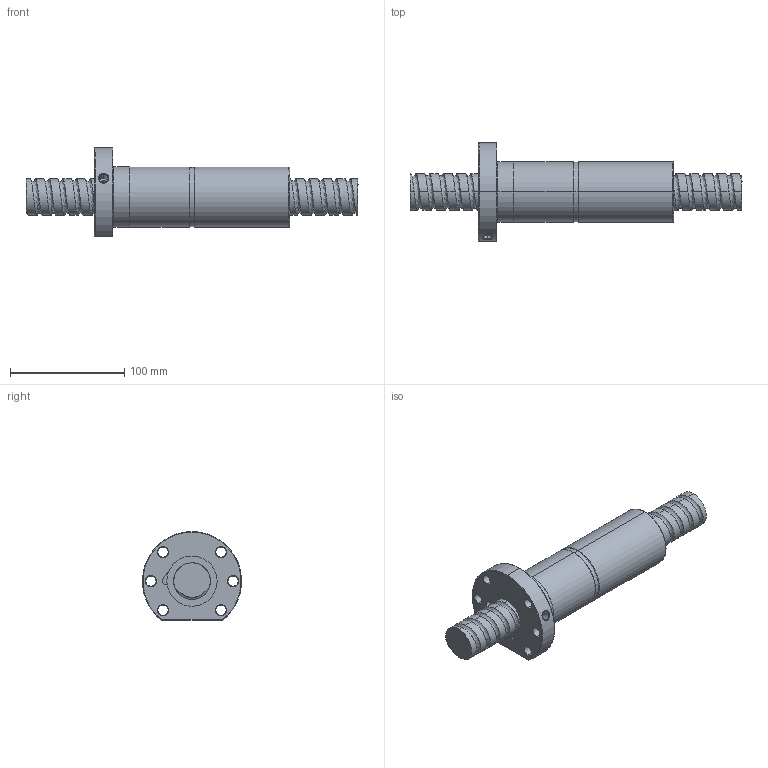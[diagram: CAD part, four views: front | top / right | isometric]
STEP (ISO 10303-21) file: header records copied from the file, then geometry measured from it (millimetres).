
FILE_DESCRIPTION (( 'STEP AP214' ), '1' );
FILE_NAME ('FDDC03212T5-D-B.STEP', '2010-07-06T05:20:07', ( 'XPAUTO' ), ( 'XPAUTO' ), 'SwSTEP 2.0', 'SolidWorks 2007', '' );
FILE_SCHEMA (( 'AUTOMOTIVE_DESIGN' ));
Length unit declared in the file: millimetre
Products named in the file (3): FDDC03212T5-D-B; FDDC03212T5-D-B.sldasm-Part-1_預設; FDDC03212T5-D-B.sldasm-Part-2_預設
Assembly tree (2 placements, depth 2):
  FDDC03212T5-D-B
    FDDC03212T5-D-B.sldasm-Part-1_預設
    FDDC03212T5-D-B.sldasm-Part-2_預設
Bounding box: 291 x 86.73 x 78 mm (x, y, z)
Volume: 501568 mm3; surface area: 93858.1 mm2
Topology: 2 solids, 2 shells, 149 faces, 376 edges, 236 vertices
Faces by surface type: cylinder 92, cone 24, plane 19, torus 9, bspline 5
Entity records: 31413 total; most frequent: CARTESIAN_POINT 27886, ORIENTED_EDGE 752, DIRECTION 672, EDGE_CURVE 376, AXIS2_PLACEMENT_3D 272, VERTEX_POINT 236, EDGE_LOOP 170, FACE_OUTER_BOUND 149
